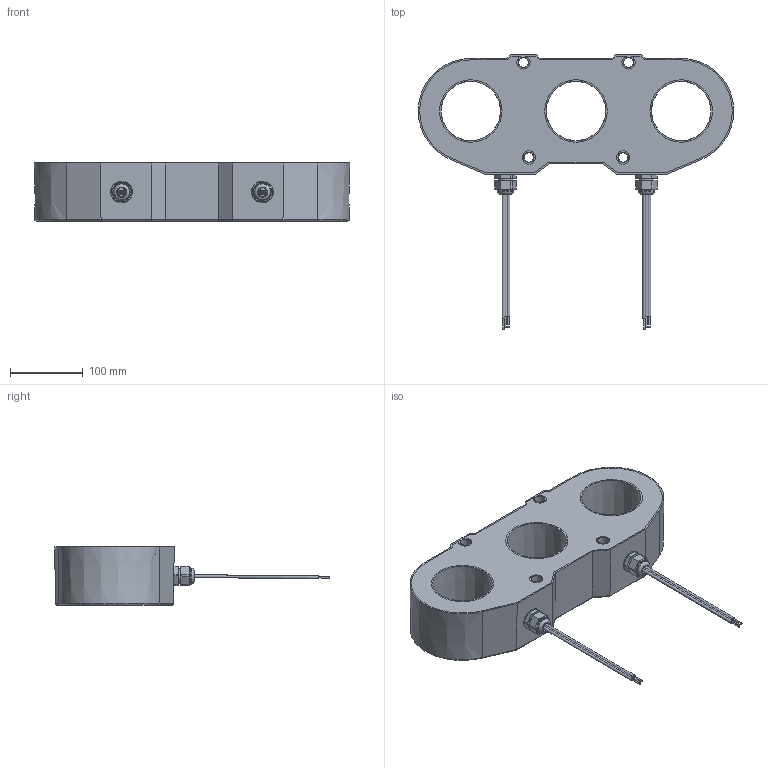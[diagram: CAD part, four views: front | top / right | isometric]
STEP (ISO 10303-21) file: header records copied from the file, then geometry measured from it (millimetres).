
FILE_DESCRIPTION(('STEP AP203'), '1');
FILE_NAME('Ñáîðêà ÒØÏ-ÍÒÇ-0,66-51 vers.2', '2026-01-21T09:04:08', ('UNSPECIFIED'), ('UNSPECIFIED'), 'ASCON STEP Converter 1.3', 'ASCON Math Kernel', '');
FILE_SCHEMA(('CONFIG_CONTROL_DESIGN'));
Length unit declared in the file: millimetre
Products named in the file (7): 7
Assembly tree (10 placements, depth 3):
  (unnamed)
    (unnamed)
    (unnamed)  x2
      7
      (unnamed)
    (unnamed)
    (unnamed)  x2
Bounding box: 434.94 x 378.23 x 80 mm (x, y, z)
Volume: 874841.7 mm3; surface area: 548326.9 mm2
Topology: 12 solids, 12 shells, 322 faces, 765 edges, 487 vertices
Faces by surface type: plane 172, cylinder 78, torus 31, cone 29, bspline 12
Full cylindrical faces by diameter (mm): 2 x6, 4 x6, 12 x2, 17 x2, 20 x4, 22 x2, 22.3 x2, 30 x4, 35 x2
Entity records: 9707 total; most frequent: CARTESIAN_POINT 2108, DIRECTION 1086, ORIENTED_EDGE 1076, EDGE_CURVE 538, AXIS2_PLACEMENT_3D 389, VERTEX_POINT 367, LINE 308, VECTOR 308
